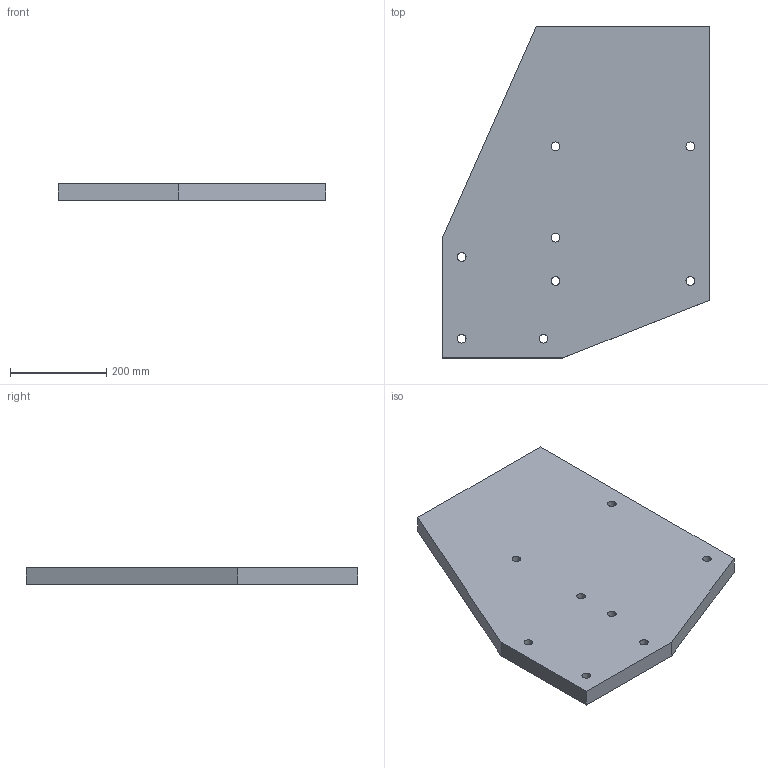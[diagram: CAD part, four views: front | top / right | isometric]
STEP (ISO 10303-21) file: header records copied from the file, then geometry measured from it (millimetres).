
FILE_DESCRIPTION(('Open CASCADE Model'),'2;1');
FILE_NAME('Open CASCADE Shape Model','2026-10-19T10:09:20',('Author'),( 'Open CASCADE'),'Open CASCADE STEP processor 8.0','Open CASCADE 8.0' ,'Unknown');
FILE_SCHEMA(('AUTOMOTIVE_DESIGN { 1 0 10303 214 1 1 1 1 }'));
Length unit declared in the file: millimetre
Products named in the file (1): BASE_COMBINADA_PORTICO_TOLVA_NORTE_t35_P05 100
Bounding box: 555 x 690 x 35 mm (x, y, z)
Volume: 11189998.7 mm3; surface area: 733628.2 mm2
Topology: 1 solids, 1 shells, 16 faces, 42 edges, 28 vertices
Faces by surface type: plane 8, cylinder 8
Full cylindrical faces by diameter (mm): 18 x8
Entity records: 1138 total; most frequent: CARTESIAN_POINT 267, DIRECTION 160, LINE 94, VECTOR 94, ORIENTED_EDGE 84, PCURVE 84, DEFINITIONAL_REPRESENTATION 84, EDGE_CURVE 42
